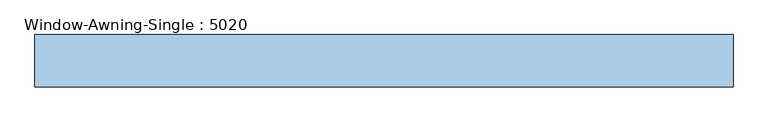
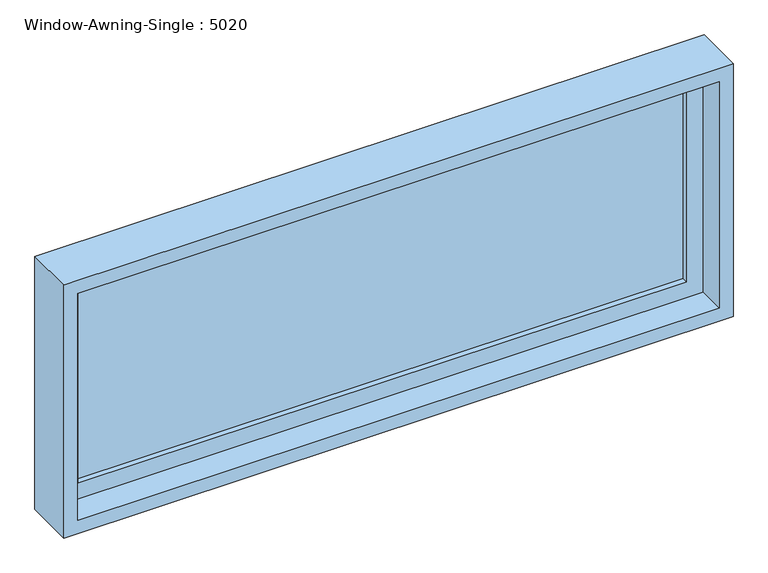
"""IFC4 building model written with IfcOpenShell, lengths in millimetres: window geometry, Window-Awning-Single : 5020."""

from ifc_helpers import new_model, si_unit, frame, origin, place, context, project, spatial, polyline, outline, extrude, faceted_brep, source, transform, mapped, element, save


def window_awning_single_5020_007f8b80(model_context):
    return source(origin(), model_context, "Body", "SolidModel", [
        extrude(outline(polyline([(927.1, -749.3), (927.1, 749.3), (1511.3, 749.3), (1511.3, -749.3), (927.1, -749.3)]), holes=[polyline([(1454.15, -692.15), (1454.15, 692.15), (984.25, 692.15), (984.25, -692.15), (1454.15, -692.15)])]), frame((0.0, 47.625, 0.0), z_axis=(0.0, 1.0, 0.0), x_axis=(0.0, 0.0, 1.0)), (0.0, 0.0, 1.0), 44.45),
        extrude(outline(polyline([(692.15, 79.375), (692.15, 73.025), (-692.15, 73.025), (-692.15, 79.375), (692.15, 79.375)])), frame((0.0, 0.0, 984.25), z_axis=(0.0, 0.0, 1.0), x_axis=(1.0, 0.0, 0.0)), (0.0, 0.0, 1.0), 469.9),
        extrude(outline(polyline([(692.15, 66.675), (692.15, 60.325), (-692.15, 60.325), (-692.15, 66.675), (692.15, 66.675)])), frame((0.0, 0.0, 984.25), z_axis=(0.0, 0.0, 1.0), x_axis=(1.0, 0.0, 0.0)), (0.0, 0.0, 1.0), 469.9),
        faceted_brep([(749.3, 47.625, 927.1), (749.3, 98.425, 927.1), (-749.3, 98.425, 927.1), (-749.3, 47.625, 927.1), (730.25, -15.875, 946.15), (730.25, 47.625, 946.15), (-730.25, 47.625, 946.15), (-730.25, -15.875, 946.15), (762.0, 98.425, 914.4), (762.0, -15.875, 914.4), (-762.0, -15.875, 914.4), (-762.0, 98.425, 914.4), (-749.3, 98.425, 1511.3), (-749.3, 47.625, 1511.3), (-730.25, 47.625, 1492.25), (-730.25, -15.875, 1492.25), (-762.0, -15.875, 1524.0), (-762.0, 98.425, 1524.0), (749.3, 98.425, 1511.3), (749.3, 47.625, 1511.3), (730.25, 47.625, 1492.25), (730.25, -15.875, 1492.25), (762.0, -15.875, 1524.0), (762.0, 98.425, 1524.0)], [[[0, 1, 2, 3]], [[4, 5, 6, 7]], [[8, 9, 10, 11]], [[3, 2, 12, 13]], [[7, 6, 14, 15]], [[11, 10, 16, 17]], [[13, 12, 18, 19]], [[15, 14, 20, 21]], [[17, 16, 22, 23]], [[11, 17, 23, 8], [1, 18, 12, 2]], [[19, 18, 1, 0]], [[3, 13, 19, 0], [5, 20, 14, 6]], [[21, 20, 5, 4]], [[9, 22, 16, 10], [7, 15, 21, 4]], [[23, 22, 9, 8]]]),
    ])


if __name__ == "__main__":
    model = new_model("IFC4")
    model_context = context("Model", 3, world=origin())
    ifc_project = project(units=[si_unit("LENGTHUNIT", "METRE", prefix="MILLI")], contexts=[model_context])
    site = spatial("IfcSite", under=ifc_project)
    building = spatial("IfcBuilding", under=site)
    placement = place(None, origin())
    window_awning_single_5020_shape = window_awning_single_5020_007f8b80(model_context)
    element("IfcWindow", 1, ObjectType="Window-Awning-Single : 5020", at=placement, inside=building, context=model_context, shape_type="MappedRepresentation", body=[
        mapped(window_awning_single_5020_shape, transform((0.0, 0.0, 0.0), x_axis=(1.0, 0.0, 0.0), y_axis=(0.0, 1.0, 0.0), z_axis=(0.0, 0.0, 1.0))),
    ])
    save(model, "model.ifc")
